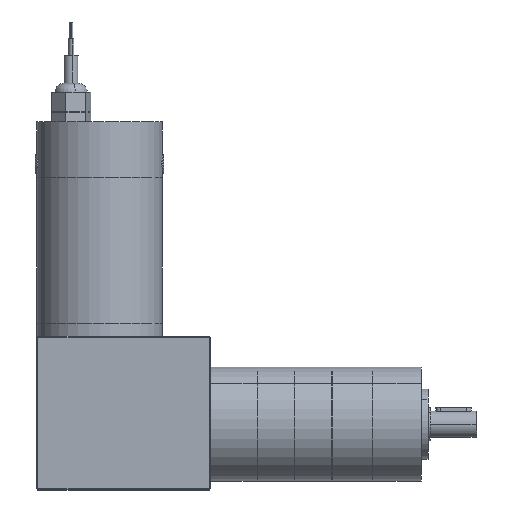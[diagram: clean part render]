
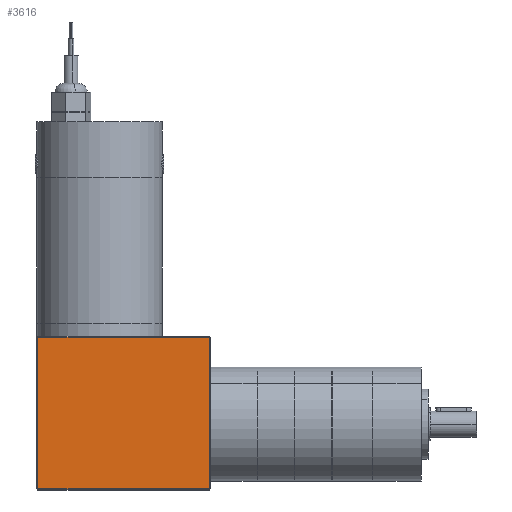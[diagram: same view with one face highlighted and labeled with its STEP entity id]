
A CAD part, top view. The second image highlights one B-rep face of the part: STEP entity #3616.
In plain terms, the highlighted planar face has unit normal (0, 0, 1).
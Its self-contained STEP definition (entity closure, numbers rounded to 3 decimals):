
#567 = AXIS2_PLACEMENT_3D ( 'NONE', #10175, #11375, #11429 ) ;
#727 = EDGE_LOOP ( 'NONE', ( #15462, #6430, #9480, #15988 ) ) ;
#1294 = EDGE_CURVE ( 'NONE', #14978, #13212, #6803, .T. ) ;
#2667 = PLANE ( 'NONE',  #567 ) ;
#3616 = ADVANCED_FACE ( 'NONE', ( #13975 ), #2667, .T. ) ;
#3702 = VERTEX_POINT ( 'NONE', #13892 ) ;
#5138 = LINE ( 'NONE', #6781, #11357 ) ;
#5694 = EDGE_CURVE ( 'NONE', #13212, #3702, #5138, .T. ) ;
#6140 = DIRECTION ( 'NONE',  ( 1., 0., 0. ) ) ;
#6430 = ORIENTED_EDGE ( 'NONE', *, *, #5694, .T. ) ;
#6781 = CARTESIAN_POINT ( 'NONE',  ( 24.986, -30.656, -42.452 ) ) ;
#6803 = LINE ( 'NONE', #9743, #13451 ) ;
#6805 = VECTOR ( 'NONE', #14024, 1000. ) ;
#7578 = CARTESIAN_POINT ( 'NONE',  ( -53.069, -99.998, -42.452 ) ) ;
#8841 = EDGE_CURVE ( 'NONE', #15841, #14978, #9350, .T. ) ;
#9350 = LINE ( 'NONE', #15265, #6805 ) ;
#9480 = ORIENTED_EDGE ( 'NONE', *, *, #12480, .T. ) ;
#9743 = CARTESIAN_POINT ( 'NONE',  ( 25.494, -99.998, -42.452 ) ) ;
#10175 = CARTESIAN_POINT ( 'NONE',  ( -14.042, -65.581, -42.452 ) ) ;
#10380 = VECTOR ( 'NONE', #11676, 1000. ) ;
#11357 = VECTOR ( 'NONE', #11908, 1000. ) ;
#11375 = DIRECTION ( 'NONE',  ( 0., 0., 1. ) ) ;
#11429 = DIRECTION ( 'NONE',  ( 1., 0., 0. ) ) ;
#11676 = DIRECTION ( 'NONE',  ( -1., 0., 0. ) ) ;
#11908 = DIRECTION ( 'NONE',  ( 0., 1., 0. ) ) ;
#12480 = EDGE_CURVE ( 'NONE', #3702, #15841, #14280, .T. ) ;
#13212 = VERTEX_POINT ( 'NONE', #14421 ) ;
#13451 = VECTOR ( 'NONE', #6140, 1000. ) ;
#13892 = CARTESIAN_POINT ( 'NONE',  ( 24.986, -31.164, -42.452 ) ) ;
#13975 = FACE_OUTER_BOUND ( 'NONE', #727, .T. ) ;
#14024 = DIRECTION ( 'NONE',  ( 0., -1., 0. ) ) ;
#14280 = LINE ( 'NONE', #15311, #10380 ) ;
#14421 = CARTESIAN_POINT ( 'NONE',  ( 24.986, -99.998, -42.452 ) ) ;
#14927 = CARTESIAN_POINT ( 'NONE',  ( -53.069, -31.164, -42.452 ) ) ;
#14978 = VERTEX_POINT ( 'NONE', #7578 ) ;
#15265 = CARTESIAN_POINT ( 'NONE',  ( -53.069, -100.506, -42.452 ) ) ;
#15311 = CARTESIAN_POINT ( 'NONE',  ( -53.577, -31.164, -42.452 ) ) ;
#15462 = ORIENTED_EDGE ( 'NONE', *, *, #1294, .T. ) ;
#15841 = VERTEX_POINT ( 'NONE', #14927 ) ;
#15988 = ORIENTED_EDGE ( 'NONE', *, *, #8841, .T. ) ;
